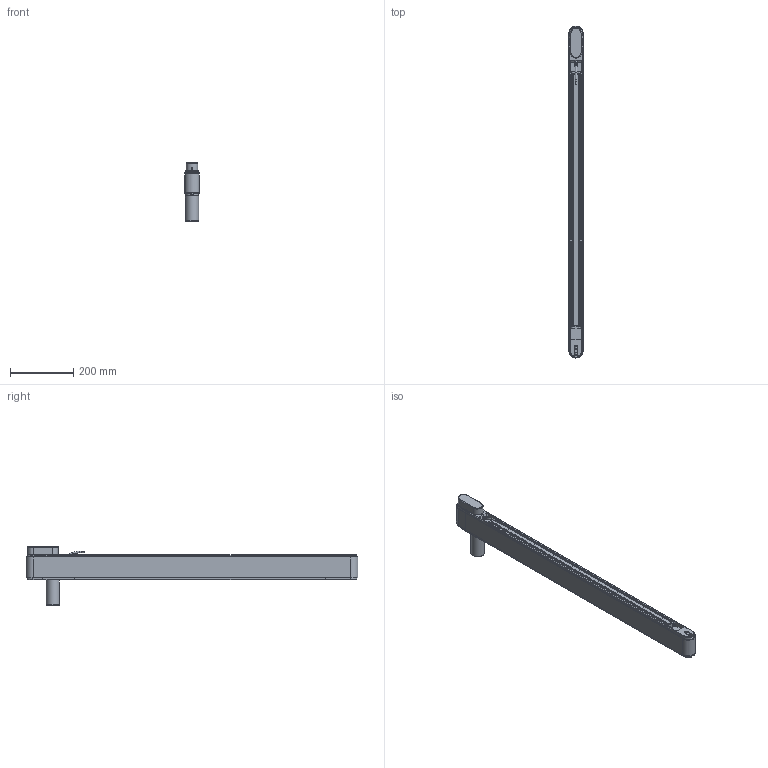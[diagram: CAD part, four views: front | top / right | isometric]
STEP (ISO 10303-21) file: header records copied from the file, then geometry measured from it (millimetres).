
FILE_DESCRIPTION(/* description */ (''),/* implementation_level */ '2;1');
FILE_NAME(/* name */ 'G:\DATEN\CAD\Förderband\Marketing\3D-Modelle (Standard)\FR-40-80-Q\FR-40-80-Q-1000-K (Motorendrohr 80 mm).stp',/* time_stamp */ '2019-05-08T14:22:28+02:00',/* author */ ('melanie.ochs'),/* organization */ (''),/* preprocessor_version */ 'ST-DEVELOPER v17',/* originating_system */ 'Autodesk Inventor 2019',/* authorisation */ '');
FILE_SCHEMA (('CONFIG_CONTROL_DESIGN'));
Length unit declared in the file: millimetre
Products named in the file (1): FR-40-80-Q-1000-K (Motorendrohr 80 mm)
Bounding box: 46.6 x 1046.6 x 185 mm (x, y, z)
Volume: 1724035.8 mm3; surface area: 1043888.1 mm2
Topology: 31 solids, 32 shells, 885 faces, 2408 edges, 1638 vertices
Faces by surface type: plane 442, cylinder 279, cone 72, bspline 61, torus 31
Full cylindrical faces by diameter (mm): 2 x2, 4 x6, 4.3 x4, 4.65 x1, 4.917 x2, 5 x11, 5.5 x8, 6 x2, 6.5 x1, 6.773 x1, 6.917 x2, 8 x7, 8.3 x16, 8.5 x8, 8.773 x1, 10 x1, 11 x1, 12 x3, 25 x2, 28 x4, 42 x2, 44 x2
Entity records: 29783 total; most frequent: CARTESIAN_POINT 6251, ORIENTED_EDGE 4780, DIRECTION 4651, EDGE_CURVE 2390, AXIS2_PLACEMENT_3D 1690, VERTEX_POINT 1638, LINE 1271, VECTOR 1271
